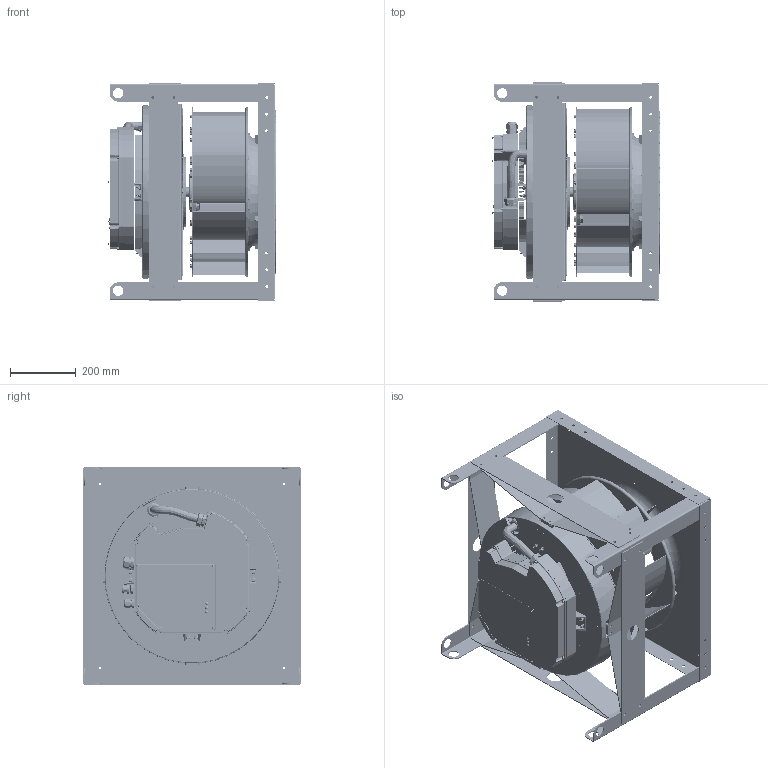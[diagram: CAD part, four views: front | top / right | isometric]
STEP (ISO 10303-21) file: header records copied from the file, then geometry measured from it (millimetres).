
FILE_DESCRIPTION (( 'STEP AP214' ), '1' );
FILE_NAME ('655770.STEP', '2026-06-10T14:44:01', ( '' ), ( '' ), 'SwSTEP 2.0', 'SolidWorks 2023', '' );
FILE_SCHEMA (( 'AUTOMOTIVE_DESIGN' ));
Length unit declared in the file: inch
Products named in the file (19): SXP20 INLET_651415; 651592_651592; 925959CS_925959CS; 941044_941044; 651591_651591; 941770_BUSHING  TB2012 X 1.125; SXP20 BAFFLE_651420; SXP20 BP_651398; SXP20 WHEEL WELDMENT_655575; 941153_941153; SXP20 FP_651397; SXPI STRAP_651579; 651583_651583; SXP20 INLET ASSY_655569; 655770; SXP20 WHEEL ASSY_655590; 941156_941156; 941768_941768; SXP20 BLADE_651395
Assembly tree (83 placements, depth 4):
  655770
    651591_651591
    SXP20 INLET ASSY_655569
      SXP20 INLET_651415
      SXP20 BAFFLE_651420  x4
    SXP20 WHEEL ASSY_655590
      SXP20 WHEEL WELDMENT_655575
        SXP20 FP_651397
        SXP20 BLADE_651395  x9
        SXP20 BP_651398
        941044_941044  x36
      941153_941153  x6
      941156_941156  x6
      941768_941768
    925959CS_925959CS
    651592_651592  x4
    941770_BUSHING  TB2012 X 1.125
    651583_651583  x4
    SXPI STRAP_651579  x4
Bounding box: 507.13 x 663.7 x 663.7 mm (x, y, z)
Volume: 6240511.5 mm3; surface area: 5857272.3 mm2
Topology: 79 solids, 371 shells, 7102 faces, 21092 edges, 14215 vertices
Faces by surface type: plane 2796, cylinder 1719, bspline 1439, cone 782, torus 298, sphere 68
Full cylindrical faces by diameter (mm): 2.9 x2, 3.962 x10, 4.762 x4, 4.763 x14, 5.105 x16, 6 x37, 6.35 x36, 7 x5, 7.137 x16, 7.544 x2, 7.937 x3, 7.938 x1, 8.5 x1, 8.738 x87, 9 x4, 9.525 x12, 9.73 x8, 10 x8, 10.1 x1, 11.8 x16, 12.5 x1, 12.6 x1, 13 x15, 13.208 x36, 14 x1, 14.097 x6, 17.462 x2, 17.463 x2, 19.05 x6, 20.32 x10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
Entity records: 277557 total; most frequent: CARTESIAN_POINT 182764, ORIENTED_EDGE 18694, DIRECTION 17037, EDGE_CURVE 11735, VERTEX_POINT 8402, AXIS2_PLACEMENT_3D 6825, EDGE_LOOP 4860, FACE_OUTER_BOUND 4120
